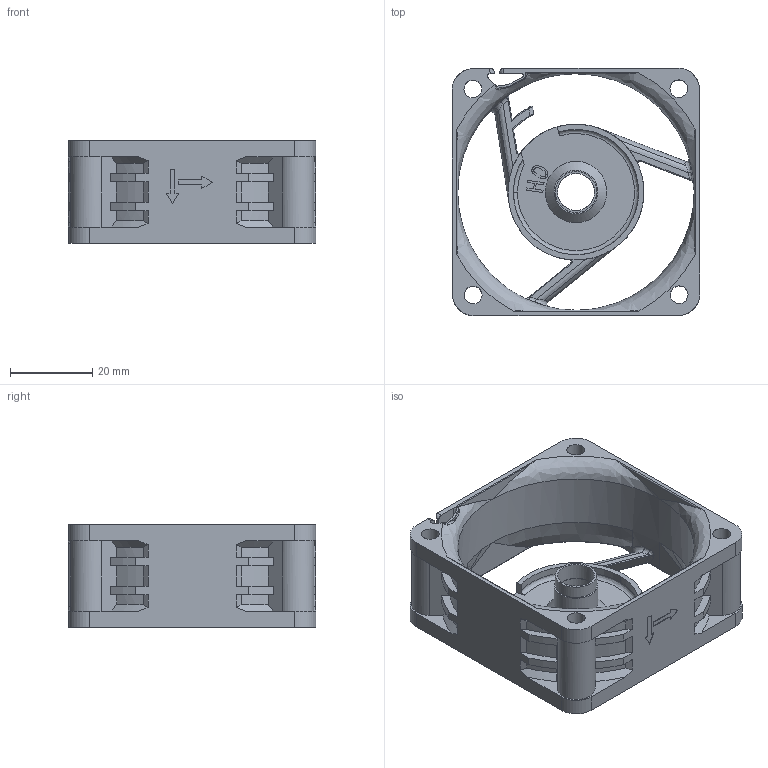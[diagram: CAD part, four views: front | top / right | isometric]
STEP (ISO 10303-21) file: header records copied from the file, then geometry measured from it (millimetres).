
FILE_DESCRIPTION( ('This file contains a STEP AP42 implementation' ,'as created by ZW3D STEP Interface translator.') ,'2;1' );
FILE_NAME( '6025CÍâ¿ò.stp' ,'23 7 7. 9 243', (''), ('ZWCAD Software Co.'), 'Version 1.0', 'ZW3D to STEP translator', '' );
FILE_SCHEMA(('AUTOMOTIVE_DESIGN'));
Length unit declared in the file: millimetre
Products named in the file (1): 0
Bounding box: 60.09 x 60.09 x 25 mm (x, y, z)
Volume: 20180.7 mm3; surface area: 17965.4 mm2
Topology: 1 solids, 1 shells, 650 faces, 1937 edges, 1294 vertices
Faces by surface type: bspline 650
Entity records: 26540 total; most frequent: CARTESIAN_POINT 14962, ORIENTED_EDGE 3872, EDGE_CURVE 1936, B_SPLINE_CURVE_WITH_KNOTS 1428, VERTEX_POINT 1294, EDGE_LOOP 672, FACE_OUTER_BOUND 650, ADVANCED_FACE 650
